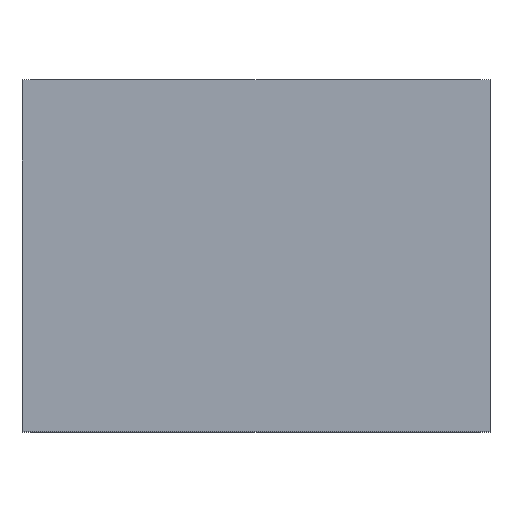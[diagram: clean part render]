
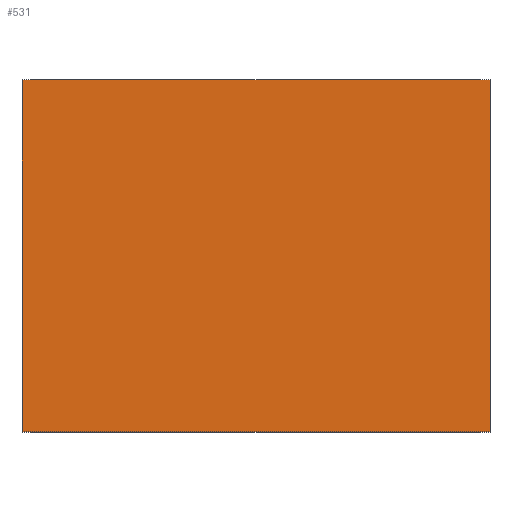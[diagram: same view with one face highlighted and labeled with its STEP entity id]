
A CAD part, top view. The second image highlights one B-rep face of the part: STEP entity #531.
In plain terms, the highlighted planar face has unit normal (0, 0, 1).
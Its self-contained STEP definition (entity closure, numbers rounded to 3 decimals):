
#24 = VERTEX_POINT('',#25);
#25 = CARTESIAN_POINT('',(0.,3.,100.));
#32 = PLANE('',#33);
#33 = AXIS2_PLACEMENT_3D('',#34,#35,#36);
#34 = CARTESIAN_POINT('',(0.,3.,0.));
#35 = DIRECTION('',(1.,0.,0.));
#36 = DIRECTION('',(0.,0.,1.));
#44 = PLANE('',#45);
#45 = AXIS2_PLACEMENT_3D('',#46,#47,#48);
#46 = CARTESIAN_POINT('',(0.,3.,0.));
#47 = DIRECTION('',(0.,1.,0.));
#48 = DIRECTION('',(0.,0.,1.));
#85 = VERTEX_POINT('',#86);
#86 = CARTESIAN_POINT('',(0.,112.,100.));
#100 = PLANE('',#101);
#101 = AXIS2_PLACEMENT_3D('',#102,#103,#104);
#102 = CARTESIAN_POINT('',(0.,112.,0.));
#103 = DIRECTION('',(0.,1.,0.));
#104 = DIRECTION('',(0.,0.,1.));
#112 = EDGE_CURVE('',#24,#85,#113,.T.);
#113 = SURFACE_CURVE('',#114,(#118,#125),.PCURVE_S1.);
#114 = LINE('',#115,#116);
#115 = CARTESIAN_POINT('',(0.,3.,100.));
#116 = VECTOR('',#117,1.);
#117 = DIRECTION('',(0.,1.,0.));
#118 = PCURVE('',#32,#119);
#119 = DEFINITIONAL_REPRESENTATION('',(#120),#124);
#120 = LINE('',#121,#122);
#121 = CARTESIAN_POINT('',(100.,0.));
#122 = VECTOR('',#123,1.);
#123 = DIRECTION('',(0.,-1.));
#124 = ( GEOMETRIC_REPRESENTATION_CONTEXT(2) 
PARAMETRIC_REPRESENTATION_CONTEXT() REPRESENTATION_CONTEXT('2D SPACE',''
  ) );
#125 = PCURVE('',#126,#131);
#126 = PLANE('',#127);
#127 = AXIS2_PLACEMENT_3D('',#128,#129,#130);
#128 = CARTESIAN_POINT('',(0.,3.,100.));
#129 = DIRECTION('',(0.,0.,1.));
#130 = DIRECTION('',(1.,0.,0.));
#131 = DEFINITIONAL_REPRESENTATION('',(#132),#136);
#132 = LINE('',#133,#134);
#133 = CARTESIAN_POINT('',(0.,0.));
#134 = VECTOR('',#135,1.);
#135 = DIRECTION('',(0.,1.));
#136 = ( GEOMETRIC_REPRESENTATION_CONTEXT(2) 
PARAMETRIC_REPRESENTATION_CONTEXT() REPRESENTATION_CONTEXT('2D SPACE',''
  ) );
#377 = EDGE_CURVE('',#24,#378,#380,.T.);
#378 = VERTEX_POINT('',#379);
#379 = CARTESIAN_POINT('',(145.,3.,100.));
#380 = SURFACE_CURVE('',#381,(#385,#392),.PCURVE_S1.);
#381 = LINE('',#382,#383);
#382 = CARTESIAN_POINT('',(0.,3.,100.));
#383 = VECTOR('',#384,1.);
#384 = DIRECTION('',(1.,0.,0.));
#385 = PCURVE('',#44,#386);
#386 = DEFINITIONAL_REPRESENTATION('',(#387),#391);
#387 = LINE('',#388,#389);
#388 = CARTESIAN_POINT('',(100.,0.));
#389 = VECTOR('',#390,1.);
#390 = DIRECTION('',(0.,1.));
#391 = ( GEOMETRIC_REPRESENTATION_CONTEXT(2) 
PARAMETRIC_REPRESENTATION_CONTEXT() REPRESENTATION_CONTEXT('2D SPACE',''
  ) );
#392 = PCURVE('',#126,#393);
#393 = DEFINITIONAL_REPRESENTATION('',(#394),#398);
#394 = LINE('',#395,#396);
#395 = CARTESIAN_POINT('',(0.,0.));
#396 = VECTOR('',#397,1.);
#397 = DIRECTION('',(1.,0.));
#398 = ( GEOMETRIC_REPRESENTATION_CONTEXT(2) 
PARAMETRIC_REPRESENTATION_CONTEXT() REPRESENTATION_CONTEXT('2D SPACE',''
  ) );
#414 = PLANE('',#415);
#415 = AXIS2_PLACEMENT_3D('',#416,#417,#418);
#416 = CARTESIAN_POINT('',(145.,3.,0.));
#417 = DIRECTION('',(1.,0.,0.));
#418 = DIRECTION('',(0.,0.,1.));
#531 = ADVANCED_FACE('',(#532),#126,.T.);
#532 = FACE_BOUND('',#533,.T.);
#533 = EDGE_LOOP('',(#534,#535,#536,#559));
#534 = ORIENTED_EDGE('',*,*,#112,.F.);
#535 = ORIENTED_EDGE('',*,*,#377,.T.);
#536 = ORIENTED_EDGE('',*,*,#537,.T.);
#537 = EDGE_CURVE('',#378,#538,#540,.T.);
#538 = VERTEX_POINT('',#539);
#539 = CARTESIAN_POINT('',(145.,112.,100.));
#540 = SURFACE_CURVE('',#541,(#545,#552),.PCURVE_S1.);
#541 = LINE('',#542,#543);
#542 = CARTESIAN_POINT('',(145.,3.,100.));
#543 = VECTOR('',#544,1.);
#544 = DIRECTION('',(0.,1.,0.));
#545 = PCURVE('',#126,#546);
#546 = DEFINITIONAL_REPRESENTATION('',(#547),#551);
#547 = LINE('',#548,#549);
#548 = CARTESIAN_POINT('',(145.,0.));
#549 = VECTOR('',#550,1.);
#550 = DIRECTION('',(0.,1.));
#551 = ( GEOMETRIC_REPRESENTATION_CONTEXT(2) 
PARAMETRIC_REPRESENTATION_CONTEXT() REPRESENTATION_CONTEXT('2D SPACE',''
  ) );
#552 = PCURVE('',#414,#553);
#553 = DEFINITIONAL_REPRESENTATION('',(#554),#558);
#554 = LINE('',#555,#556);
#555 = CARTESIAN_POINT('',(100.,0.));
#556 = VECTOR('',#557,1.);
#557 = DIRECTION('',(0.,-1.));
#558 = ( GEOMETRIC_REPRESENTATION_CONTEXT(2) 
PARAMETRIC_REPRESENTATION_CONTEXT() REPRESENTATION_CONTEXT('2D SPACE',''
  ) );
#559 = ORIENTED_EDGE('',*,*,#560,.F.);
#560 = EDGE_CURVE('',#85,#538,#561,.T.);
#561 = SURFACE_CURVE('',#562,(#566,#573),.PCURVE_S1.);
#562 = LINE('',#563,#564);
#563 = CARTESIAN_POINT('',(0.,112.,100.));
#564 = VECTOR('',#565,1.);
#565 = DIRECTION('',(1.,0.,0.));
#566 = PCURVE('',#126,#567);
#567 = DEFINITIONAL_REPRESENTATION('',(#568),#572);
#568 = LINE('',#569,#570);
#569 = CARTESIAN_POINT('',(0.,109.));
#570 = VECTOR('',#571,1.);
#571 = DIRECTION('',(1.,0.));
#572 = ( GEOMETRIC_REPRESENTATION_CONTEXT(2) 
PARAMETRIC_REPRESENTATION_CONTEXT() REPRESENTATION_CONTEXT('2D SPACE',''
  ) );
#573 = PCURVE('',#100,#574);
#574 = DEFINITIONAL_REPRESENTATION('',(#575),#579);
#575 = LINE('',#576,#577);
#576 = CARTESIAN_POINT('',(100.,0.));
#577 = VECTOR('',#578,1.);
#578 = DIRECTION('',(0.,1.));
#579 = ( GEOMETRIC_REPRESENTATION_CONTEXT(2) 
PARAMETRIC_REPRESENTATION_CONTEXT() REPRESENTATION_CONTEXT('2D SPACE',''
  ) );
